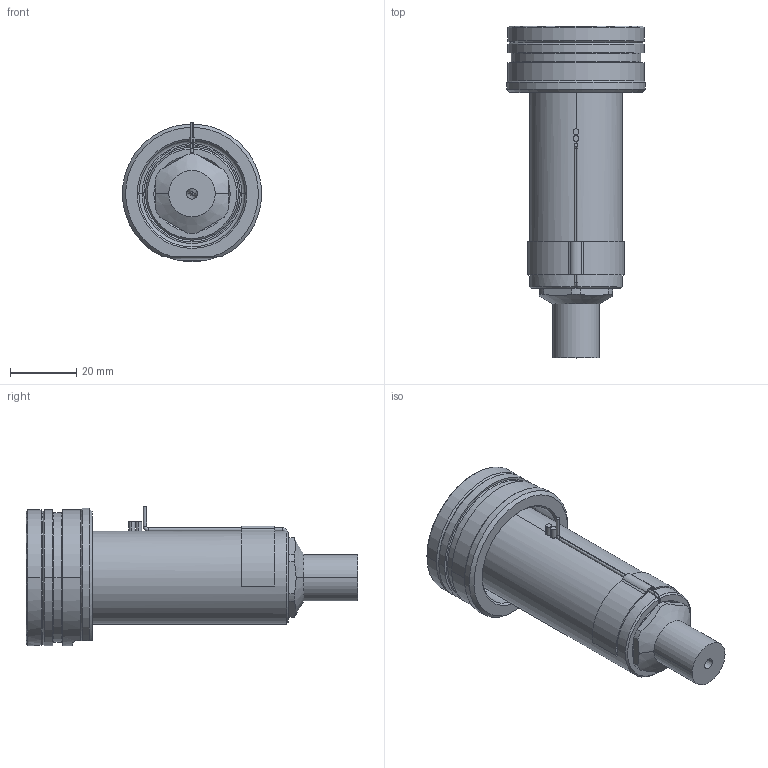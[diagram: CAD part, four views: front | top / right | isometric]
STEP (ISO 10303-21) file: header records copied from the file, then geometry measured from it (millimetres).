
FILE_DESCRIPTION((''),'2;1');
FILE_NAME('EO10_PG-FBE_STD_070_SW','2024-02-19T11:57:34',('sundharh'),(''),'CREO PARAMETRIC BY PTC INC, 2023154','CREO PARAMETRIC BY PTC INC, 2023154','');
FILE_SCHEMA(('CONFIG_CONTROL_DESIGN'));
Length unit declared in the file: millimetre
Products named in the file (1): EO10_PG-FBE_STD_070_SW
Bounding box: 41.85 x 100 x 42.02 mm (x, y, z)
Volume: 58421.5 mm3; surface area: 18323.2 mm2
Topology: 1 solids, 1 shells, 203 faces, 548 edges, 340 vertices
Faces by surface type: cylinder 80, plane 59, cone 41, torus 17, bspline 3, sphere 3
Entity records: 7396 total; most frequent: CARTESIAN_POINT 2186, DIRECTION 1138, ORIENTED_EDGE 1088, EDGE_CURVE 544, AXIS2_PLACEMENT_3D 474, VERTEX_POINT 340, CIRCLE 274, EDGE_LOOP 220
